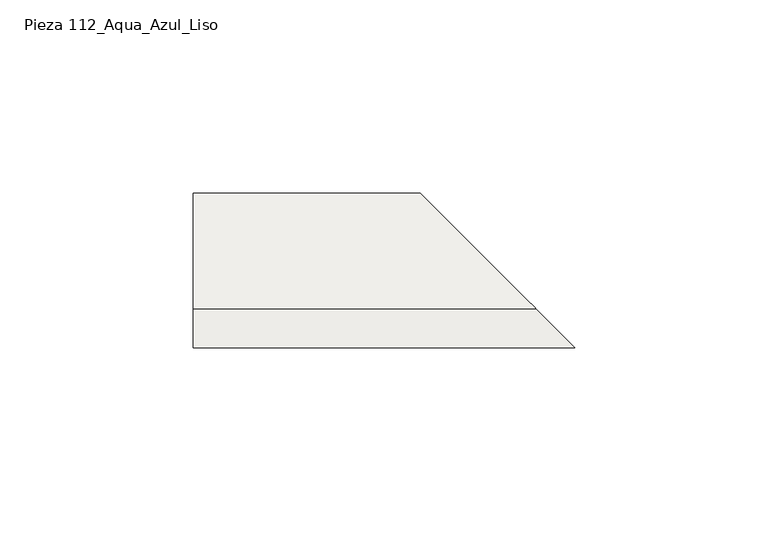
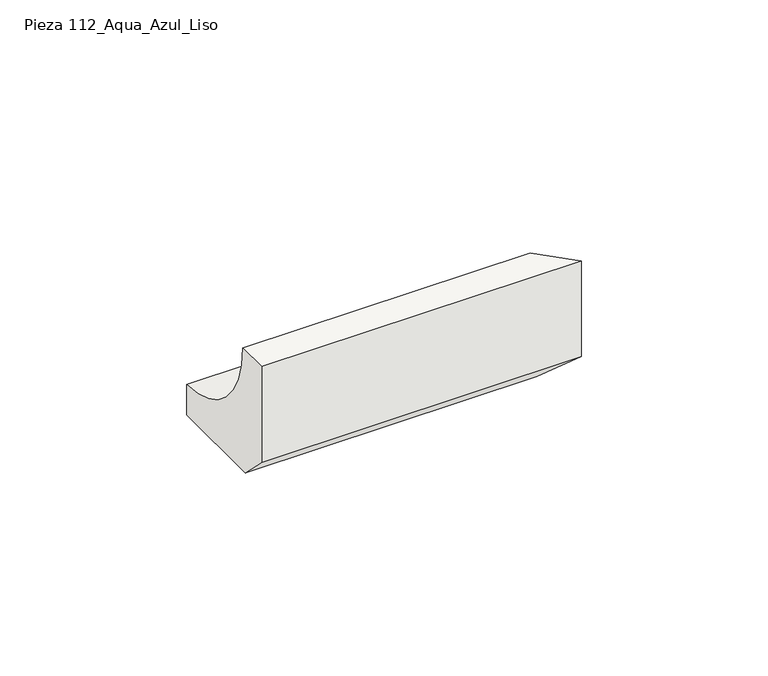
"""IFC4 building model written with IfcOpenShell, lengths in millimetres: slab geometry, ROSA GRES_112 (corte) : Pieza 112_Aqua_Azul_Liso."""

from ifc_helpers import new_model, si_unit, frame, origin, place, context, project, spatial, polyline, circle_curve, ellipse_curve, source, transform, mapped, element, save
from ifc_brep_helpers import plane_surface, revolved_surface, advanced_brep


def pieza_112_aqua_azul_liso_761c8a83(model_context):
    return source(origin(), model_context, "Body", "AdvancedBrep", [
        advanced_brep(
        [(0.0, 0.0, 8.7114978), (0.0, 0.0, 40.0), (0.0, 9.9734114, 40.0), (0.0, 40.0, 9.9734114), (0.0, 40.0, 0.0), (0.0, 8.7114978, 0.0), (98.8, 0.0, 8.7114978), (98.8, 0.0, 40.0), (88.8265886, 9.9734114, 40.0), (58.8, 40.0, 9.9734114), (58.8, 40.0, 0.0), (90.0885022, 8.7114978, 0.0)],
        [
            (0, 1),
            (1, 2),
            (2, 3, circle_curve(frame((0.0, 39.9955547, 39.9955547), z_axis=(1.0, 0.0, 0.0), x_axis=(0.0, 1.0, 0.0)), 30.0221435)),
            (3, 4),
            (4, 5),
            (5, 0),
            (0, 6),
            (6, 7),
            (7, 1),
            (7, 8),
            (8, 2),
            (8, 9, ellipse_curve(frame((58.8044453, 39.9955547, 39.9955547), z_axis=(0.7071067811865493, 0.7071067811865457, 0.0), x_axis=(0.7071067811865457, -0.7071067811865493, 0.0)), 42.4577226, 30.0221435)),
            (9, 3),
            (9, 10),
            (10, 4),
            (10, 11),
            (11, 5),
            (11, 6),
        ],
        [
            plane_surface(frame((0.0, 0.0, 0.0), z_axis=(-1.0, 0.0, 0.0), x_axis=(0.0, 0.0, 1.0))),
            plane_surface(frame((0.0, 0.0, 8.7114978), z_axis=(0.0, -1.0, 0.0), x_axis=(1.0, 0.0, 0.0))),
            plane_surface(frame((0.0, 0.0, 40.0), z_axis=(0.0, 0.0, 1.0), x_axis=(1.0, 0.0, 0.0))),
            revolved_surface(polyline([(88.82658886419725, 70.0176982, 39.9955547), (0.0, 70.0176982, 39.9955547)]), (0.0, 39.9955547, 39.9955547), (1.0, 0.0, 0.0)),
            plane_surface(frame((0.0, 40.0, 9.9734114), z_axis=(0.0, 1.0, 0.0), x_axis=(1.0, 0.0, 0.0))),
            plane_surface(frame((0.0, 40.0, 0.0), z_axis=(0.0, 0.0, -1.0), x_axis=(1.0, 0.0, 0.0))),
            plane_surface(frame((0.0, 8.7114978, 0.0), z_axis=(0.0, -0.7071067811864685, -0.7071067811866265), x_axis=(1.0, 0.0, 0.0))),
            plane_surface(frame((58.3, 40.5, 104.9871832), z_axis=(0.7071067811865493, 0.7071067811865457, 0.0), x_axis=(0.0, 0.0, -1.0))),
        ],
        [
            (0, [[1, 2, 3, 4, 5, 6]]),
            (1, [[-1, 7, 8, 9]]),
            (2, [[-2, -9, 10, 11]]),
            (3, [[-3, -11, 12, 13]]),
            (4, [[-4, -13, 14, 15]]),
            (5, [[-5, -15, 16, 17]]),
            (6, [[-6, -17, 18, -7]]),
            (7, [[-8, -18, -16, -14, -12, -10]]),
        ],
    ),
    ])


if __name__ == "__main__":
    model = new_model("IFC4")
    model_context = context("Model", 3, world=origin())
    ifc_project = project(units=[si_unit("LENGTHUNIT", "METRE", prefix="MILLI")], contexts=[model_context])
    site = spatial("IfcSite", under=ifc_project)
    building = spatial("IfcBuilding", under=site)
    placement = place(None, origin())
    pieza_112_aqua_azul_liso_shape = pieza_112_aqua_azul_liso_761c8a83(model_context)
    element("IfcSlab", 1, ObjectType="ROSA GRES_112 (corte) : Pieza 112_Aqua_Azul_Liso", at=placement, inside=building, context=model_context, shape_type="MappedRepresentation", body=[
        mapped(pieza_112_aqua_azul_liso_shape, transform((0.0, 0.0, 0.0), x_axis=(1.0, 0.0, 0.0), y_axis=(0.0, 1.0, 0.0), z_axis=(0.0, 0.0, 1.0))),
    ])
    save(model, "model.ifc")
